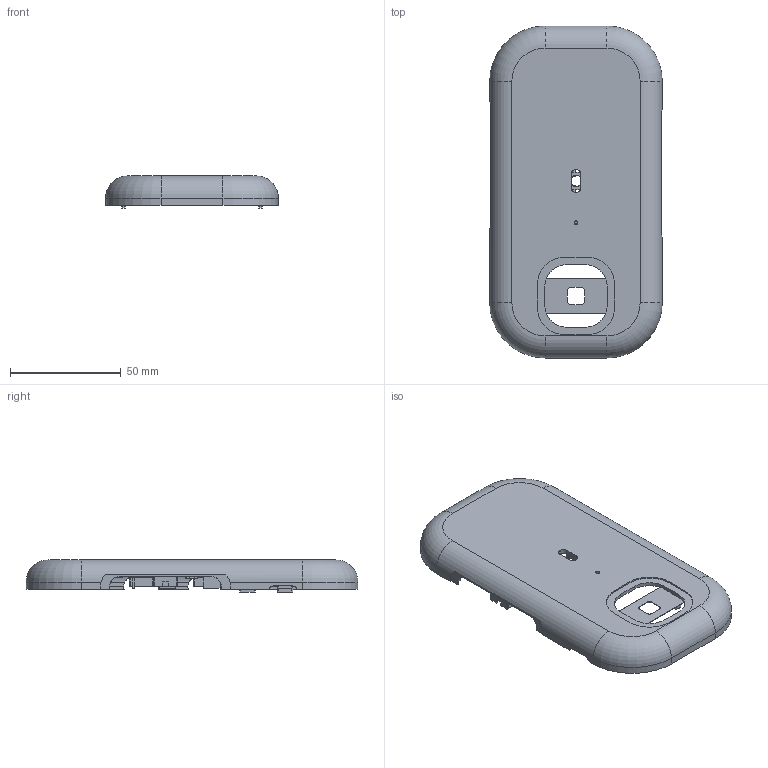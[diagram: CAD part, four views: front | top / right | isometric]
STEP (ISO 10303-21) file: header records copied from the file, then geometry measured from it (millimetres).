
FILE_DESCRIPTION(('Open CASCADE Model'),'2;1');
FILE_NAME('C27_UC1_FRONT_CASTING_MASTER_NO_GRILLE','2026-09-09T20:28:08' ,('Author'),('Open CASCADE'),'Open CASCADE STEP processor 7.9', 'build123d','Unknown');
FILE_SCHEMA(('AUTOMOTIVE_DESIGN { 1 0 10303 214 1 1 1 1 }'));
Length unit declared in the file: millimetre
Products named in the file (1): C27_UC1_FRONT_CASTING_MASTER_NO_GRILLE
Bounding box: 78 x 150 x 14.51 mm (x, y, z)
Volume: 33456.9 mm3; surface area: 35810.5 mm2
Topology: 1 solids, 1 shells, 832 faces, 2382 edges, 1566 vertices
Faces by surface type: plane 464, cylinder 352, cone 8, torus 8
Full cylindrical faces by diameter (mm): 1.7 x14, 1.8 x1, 2.1 x4, 2.2 x1, 3 x3, 4.2 x4, 5.3 x1, 5.5 x1
Entity records: 63995 total; most frequent: CARTESIAN_POINT 17043, DIRECTION 8870, LINE 5197, VECTOR 5197, ORIENTED_EDGE 4764, PCURVE 4764, DEFINITIONAL_REPRESENTATION 4764, EDGE_CURVE 2382
